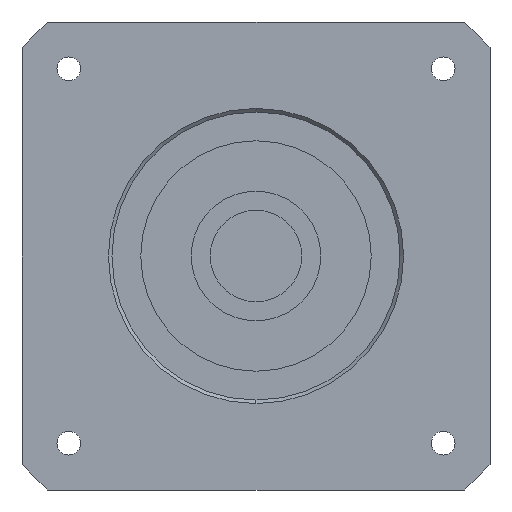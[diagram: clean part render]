
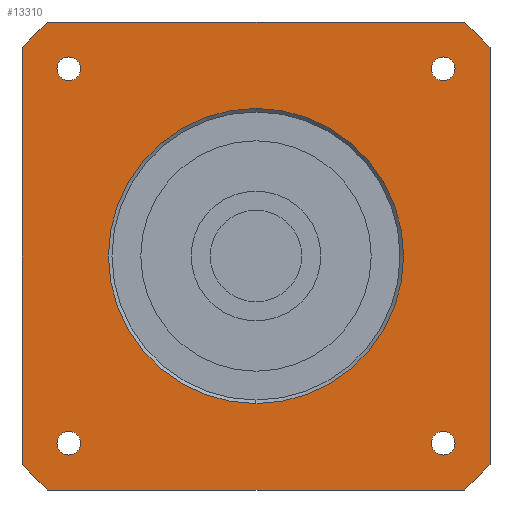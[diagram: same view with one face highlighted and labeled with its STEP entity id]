
A CAD part, left-side view. The second image highlights one B-rep face of the part: STEP entity #13310.
In plain terms, the highlighted planar face has unit normal (-1, 0, 0) as drawn and (0, 0, -1) by its records, which use the part's own axes.
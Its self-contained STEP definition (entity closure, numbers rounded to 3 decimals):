
#8640=CARTESIAN_POINT('',(26.,27.65,-35.));
#8650=VERTEX_POINT('',#8640);
#8830=CARTESIAN_POINT('',(26.,24.35,-35.));
#8840=VERTEX_POINT('',#8830);
#8870=CARTESIAN_POINT('',(26.,26.,-35.));
#8880=DIRECTION('',(0.,0.,-1.));
#8890=DIRECTION('',(1.,0.,0.));
#8900=AXIS2_PLACEMENT_3D('',#8870,#8880,#8890);
#8910=CIRCLE('',#8900,1.65);
#8920=CARTESIAN_POINT('',(27.65,26.,-35.));
#8930=VERTEX_POINT('',#8920);
#8940=EDGE_CURVE('',#8930,#8840,#8910,.T.);
#8960=EDGE_CURVE('',#8650,#8930,#8910,.T.);
#9100=CARTESIAN_POINT('',(26.,-24.35,-35.));
#9110=VERTEX_POINT('',#9100);
#9290=CARTESIAN_POINT('',(26.,-27.65,-35.));
#9300=VERTEX_POINT('',#9290);
#9330=CARTESIAN_POINT('',(26.,-26.,-35.));
#9340=DIRECTION('',(0.,0.,-1.));
#9350=DIRECTION('',(1.,0.,0.));
#9360=AXIS2_PLACEMENT_3D('',#9330,#9340,#9350);
#9370=CIRCLE('',#9360,1.65);
#9380=CARTESIAN_POINT('',(27.65,-26.,-35.));
#9390=VERTEX_POINT('',#9380);
#9400=EDGE_CURVE('',#9390,#9300,#9370,.T.);
#9420=EDGE_CURVE('',#9110,#9390,#9370,.T.);
#11780=CARTESIAN_POINT('',(0.,-20.5,-35.));
#11790=VERTEX_POINT('',#11780);
#11820=CARTESIAN_POINT('',(0.,0.,-35.));
#11830=DIRECTION('',(0.,0.,1.));
#11840=DIRECTION('',(0.,1.,0.));
#11850=AXIS2_PLACEMENT_3D('',#11820,#11830,#11840);
#11860=CIRCLE('',#11850,20.5);
#11870=CARTESIAN_POINT('',(0.,20.5,-35.));
#11880=VERTEX_POINT('',#11870);
#11890=EDGE_CURVE('',#11790,#11880,#11860,.T.);
#12010=CARTESIAN_POINT('',(32.5,32.5,-35.));
#12020=DIRECTION('',(0.,0.,1.));
#12030=DIRECTION('',(0.,1.,0.));
#12040=AXIS2_PLACEMENT_3D('',#12010,#12020,#12030);
#12050=PLANE('',#12040);
#12060=CARTESIAN_POINT('',(-26.,-26.,-35.));
#12070=DIRECTION('',(0.,0.,-1.));
#12080=DIRECTION('',(1.,0.,0.));
#12090=AXIS2_PLACEMENT_3D('',#12060,#12070,#12080);
#12100=CIRCLE('',#12090,1.65);
#12110=CARTESIAN_POINT('',(-24.35,-26.,-35.));
#12120=VERTEX_POINT('',#12110);
#12130=CARTESIAN_POINT('',(-26.,-27.65,-35.));
#12140=VERTEX_POINT('',#12130);
#12150=EDGE_CURVE('',#12120,#12140,#12100,.T.);
#12160=ORIENTED_EDGE('',*,*,#12150,.F.);
#12170=CARTESIAN_POINT('',(-26.,-24.35,-35.));
#12180=VERTEX_POINT('',#12170);
#12190=EDGE_CURVE('',#12140,#12180,#12100,.T.);
#12200=ORIENTED_EDGE('',*,*,#12190,.F.);
#12210=EDGE_CURVE('',#12180,#12120,#12100,.T.);
#12220=ORIENTED_EDGE('',*,*,#12210,.F.);
#12230=EDGE_LOOP('',(#12220,#12200,#12160));
#12240=FACE_BOUND('',#12230,.T.);
#12250=CARTESIAN_POINT('',(-26.,26.,-35.));
#12260=DIRECTION('',(0.,0.,-1.));
#12270=DIRECTION('',(1.,0.,0.));
#12280=AXIS2_PLACEMENT_3D('',#12250,#12260,#12270);
#12290=CIRCLE('',#12280,1.65);
#12300=CARTESIAN_POINT('',(-24.35,26.,-35.));
#12310=VERTEX_POINT('',#12300);
#12320=CARTESIAN_POINT('',(-26.,24.35,-35.));
#12330=VERTEX_POINT('',#12320);
#12340=EDGE_CURVE('',#12310,#12330,#12290,.T.);
#12350=ORIENTED_EDGE('',*,*,#12340,.F.);
#12360=CARTESIAN_POINT('',(-26.,27.65,-35.));
#12370=VERTEX_POINT('',#12360);
#12380=EDGE_CURVE('',#12330,#12370,#12290,.T.);
#12390=ORIENTED_EDGE('',*,*,#12380,.F.);
#12400=EDGE_CURVE('',#12370,#12310,#12290,.T.);
#12410=ORIENTED_EDGE('',*,*,#12400,.F.);
#12420=EDGE_LOOP('',(#12410,#12390,#12350));
#12430=FACE_BOUND('',#12420,.T.);
#12440=ORIENTED_EDGE('',*,*,#8940,.F.);
#12450=EDGE_CURVE('',#8840,#8650,#8910,.T.);
#12460=ORIENTED_EDGE('',*,*,#12450,.F.);
#12470=ORIENTED_EDGE('',*,*,#8960,.F.);
#12480=EDGE_LOOP('',(#12470,#12460,#12440));
#12490=FACE_BOUND('',#12480,.T.);
#12500=ORIENTED_EDGE('',*,*,#9400,.F.);
#12510=EDGE_CURVE('',#9300,#9110,#9370,.T.);
#12520=ORIENTED_EDGE('',*,*,#12510,.F.);
#12530=ORIENTED_EDGE('',*,*,#9420,.F.);
#12540=EDGE_LOOP('',(#12530,#12520,#12500));
#12550=FACE_BOUND('',#12540,.T.);
#12560=EDGE_CURVE('',#11880,#11790,#11860,.T.);
#12570=ORIENTED_EDGE('',*,*,#12560,.T.);
#12580=ORIENTED_EDGE('',*,*,#11890,.T.);
#12590=EDGE_LOOP('',(#12580,#12570));
#12600=FACE_BOUND('',#12590,.T.);
#12610=CARTESIAN_POINT('',(-32.5,32.5,-35.));
#12620=DIRECTION('',(0.,-1.,0.));
#12630=VECTOR('',#12620,1000.);
#12640=LINE('',#12610,#12630);
#12650=CARTESIAN_POINT('',(-32.5,28.914,-35.));
#12660=VERTEX_POINT('',#12650);
#12670=CARTESIAN_POINT('',(-32.5,-28.914,-35.));
#12680=VERTEX_POINT('',#12670);
#12690=EDGE_CURVE('',#12660,#12680,#12640,.T.);
#12700=ORIENTED_EDGE('',*,*,#12690,.F.);
#12710=CARTESIAN_POINT('',(0.,0.,
-35.));
#12720=DIRECTION('',(0.,0.,-1.));
#12730=DIRECTION('',(-1.,0.,0.));
#12740=AXIS2_PLACEMENT_3D('',#12710,#12720,#12730);
#12750=CIRCLE('',#12740,43.5);
#12760=CARTESIAN_POINT('',(-28.914,-32.5,-35.));
#12770=VERTEX_POINT('',#12760);
#12780=EDGE_CURVE('',#12770,#12680,#12750,.T.);
#12790=ORIENTED_EDGE('',*,*,#12780,.T.);
#12800=CARTESIAN_POINT('',(-32.5,-32.5,-35.));
#12810=DIRECTION('',(1.,0.,0.));
#12820=VECTOR('',#12810,1000.);
#12830=LINE('',#12800,#12820);
#12840=CARTESIAN_POINT('',(28.914,-32.5,-35.));
#12850=VERTEX_POINT('',#12840);
#12860=EDGE_CURVE('',#12770,#12850,#12830,.T.);
#12870=ORIENTED_EDGE('',*,*,#12860,.F.);
#12880=CARTESIAN_POINT('',(0.,0.,
-35.));
#12890=DIRECTION('',(0.,0.,-1.));
#12900=DIRECTION('',(-1.,0.,0.));
#12910=AXIS2_PLACEMENT_3D('',#12880,#12890,#12900);
#12920=CIRCLE('',#12910,43.5);
#12930=CARTESIAN_POINT('',(32.5,-28.914,-35.));
#12940=VERTEX_POINT('',#12930);
#12950=EDGE_CURVE('',#12940,#12850,#12920,.T.);
#12960=ORIENTED_EDGE('',*,*,#12950,.T.);
#12970=CARTESIAN_POINT('',(32.5,-32.5,-35.));
#12980=DIRECTION('',(0.,1.,0.));
#12990=VECTOR('',#12980,1000.);
#13000=LINE('',#12970,#12990);
#13010=CARTESIAN_POINT('',(32.5,28.914,-35.));
#13020=VERTEX_POINT('',#13010);
#13030=EDGE_CURVE('',#12940,#13020,#13000,.T.);
#13040=ORIENTED_EDGE('',*,*,#13030,.F.);
#13050=CARTESIAN_POINT('',(0.,0.,
-35.));
#13060=DIRECTION('',(0.,0.,-1.));
#13070=DIRECTION('',(-1.,0.,0.));
#13080=AXIS2_PLACEMENT_3D('',#13050,#13060,#13070);
#13090=CIRCLE('',#13080,43.5);
#13100=CARTESIAN_POINT('',(28.914,32.5,-35.));
#13110=VERTEX_POINT('',#13100);
#13120=EDGE_CURVE('',#13110,#13020,#13090,.T.);
#13130=ORIENTED_EDGE('',*,*,#13120,.T.);
#13140=CARTESIAN_POINT('',(32.5,32.5,-35.));
#13150=DIRECTION('',(-1.,0.,0.));
#13160=VECTOR('',#13150,1000.);
#13170=LINE('',#13140,#13160);
#13180=CARTESIAN_POINT('',(-28.914,32.5,-35.));
#13190=VERTEX_POINT('',#13180);
#13200=EDGE_CURVE('',#13110,#13190,#13170,.T.);
#13210=ORIENTED_EDGE('',*,*,#13200,.F.);
#13220=CARTESIAN_POINT('',(0.,0.,
-35.));
#13230=DIRECTION('',(0.,0.,-1.));
#13240=DIRECTION('',(-1.,0.,0.));
#13250=AXIS2_PLACEMENT_3D('',#13220,#13230,#13240);
#13260=CIRCLE('',#13250,43.5);
#13270=EDGE_CURVE('',#12660,#13190,#13260,.T.);
#13280=ORIENTED_EDGE('',*,*,#13270,.T.);
#13290=EDGE_LOOP('',(#13280,#13210,#13130,#13040,#12960,#12870,#12790,
#12700));
#13300=FACE_OUTER_BOUND('',#13290,.T.);
#13310=ADVANCED_FACE('',(#12240,#12430,#12490,#12550,#12600,#13300),
#12050,.F.);
